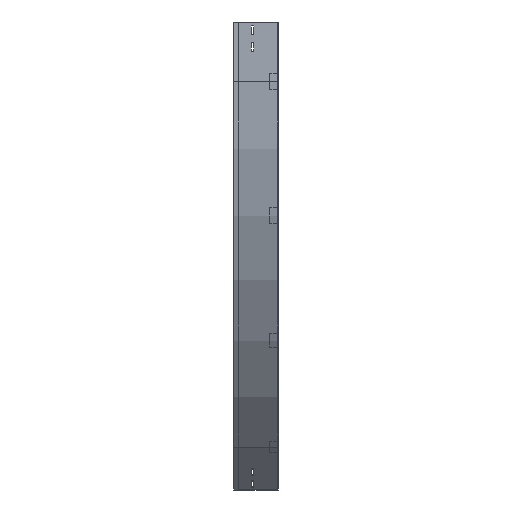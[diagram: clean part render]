
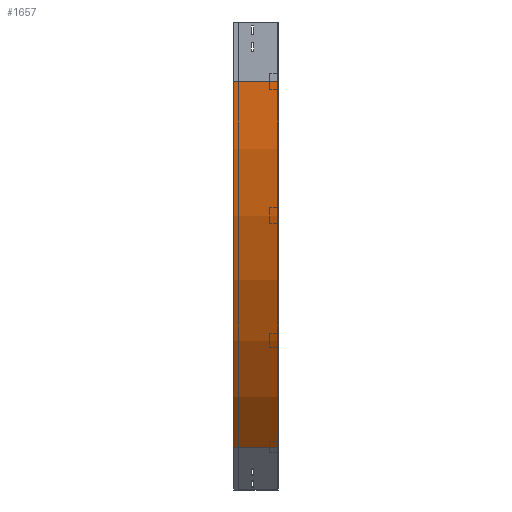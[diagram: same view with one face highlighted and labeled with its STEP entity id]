
A CAD part, left-side view. The second image highlights one B-rep face of the part: STEP entity #1657.
In plain terms, the highlighted cylindrical face has radius 1300 mm (diameter 2600 mm), a partial arc.
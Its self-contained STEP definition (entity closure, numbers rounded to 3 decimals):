
#181 = AXIS2_PLACEMENT_3D ( 'NONE', #532, #1724, #1426 ) ;
#206 = VERTEX_POINT ( 'NONE', #3385 ) ;
#450 = CARTESIAN_POINT ( 'NONE',  ( 1300., 112.5, -150. ) ) ;
#461 = VERTEX_POINT ( 'NONE', #2269 ) ;
#532 = CARTESIAN_POINT ( 'NONE',  ( 1300., 0., -150. ) ) ;
#610 = CIRCLE ( 'NONE', #2478, 1300. ) ;
#620 = AXIS2_PLACEMENT_3D ( 'NONE', #450, #3136, #1656 ) ;
#705 = CARTESIAN_POINT ( 'NONE',  ( 1300., 0., -150. ) ) ;
#970 = ORIENTED_EDGE ( 'NONE', *, *, #2755, .F. ) ;
#975 = CARTESIAN_POINT ( 'NONE',  ( 0., 0., -150. ) ) ;
#1201 = EDGE_CURVE ( 'NONE', #2542, #3302, #2912, .T. ) ;
#1223 = ORIENTED_EDGE ( 'NONE', *, *, #1437, .T. ) ;
#1322 = DIRECTION ( 'NONE',  ( 0., -1., 0. ) ) ;
#1421 = VECTOR ( 'NONE', #1738, 1000. ) ;
#1426 = DIRECTION ( 'NONE',  ( 0., 0., -1. ) ) ;
#1437 = EDGE_CURVE ( 'NONE', #3302, #206, #1520, .T. ) ;
#1457 = CARTESIAN_POINT ( 'NONE',  ( 380.761, 0., -1069.239 ) ) ;
#1520 = LINE ( 'NONE', #1457, #1421 ) ;
#1656 = DIRECTION ( 'NONE',  ( -1., 0., 0. ) ) ;
#1657 = ADVANCED_FACE ( 'NONE', ( #2313 ), #3495, .T. ) ;
#1679 = EDGE_LOOP ( 'NONE', ( #2353, #970, #2736, #1223 ) ) ;
#1724 = DIRECTION ( 'NONE',  ( 0., -1., 0. ) ) ;
#1738 = DIRECTION ( 'NONE',  ( 0., -1., 0. ) ) ;
#1801 = CARTESIAN_POINT ( 'NONE',  ( 380.761, 112.5, -1069.239 ) ) ;
#1803 = VECTOR ( 'NONE', #2165, 1000. ) ;
#2165 = DIRECTION ( 'NONE',  ( 0., -1., 0. ) ) ;
#2269 = CARTESIAN_POINT ( 'NONE',  ( 0., 0., -150. ) ) ;
#2313 = FACE_OUTER_BOUND ( 'NONE', #1679, .T. ) ;
#2353 = ORIENTED_EDGE ( 'NONE', *, *, #2366, .F. ) ;
#2366 = EDGE_CURVE ( 'NONE', #461, #206, #610, .T. ) ;
#2453 = LINE ( 'NONE', #975, #1803 ) ;
#2478 = AXIS2_PLACEMENT_3D ( 'NONE', #705, #1322, #3723 ) ;
#2542 = VERTEX_POINT ( 'NONE', #2938 ) ;
#2736 = ORIENTED_EDGE ( 'NONE', *, *, #1201, .T. ) ;
#2755 = EDGE_CURVE ( 'NONE', #2542, #461, #2453, .T. ) ;
#2912 = CIRCLE ( 'NONE', #620, 1300. ) ;
#2938 = CARTESIAN_POINT ( 'NONE',  ( 0., 112.5, -150. ) ) ;
#3136 = DIRECTION ( 'NONE',  ( 0., -1., 0. ) ) ;
#3302 = VERTEX_POINT ( 'NONE', #1801 ) ;
#3385 = CARTESIAN_POINT ( 'NONE',  ( 380.761, 0., -1069.239 ) ) ;
#3495 = CYLINDRICAL_SURFACE ( 'NONE', #181, 1300. ) ;
#3723 = DIRECTION ( 'NONE',  ( -1., 0., 0. ) ) ;
